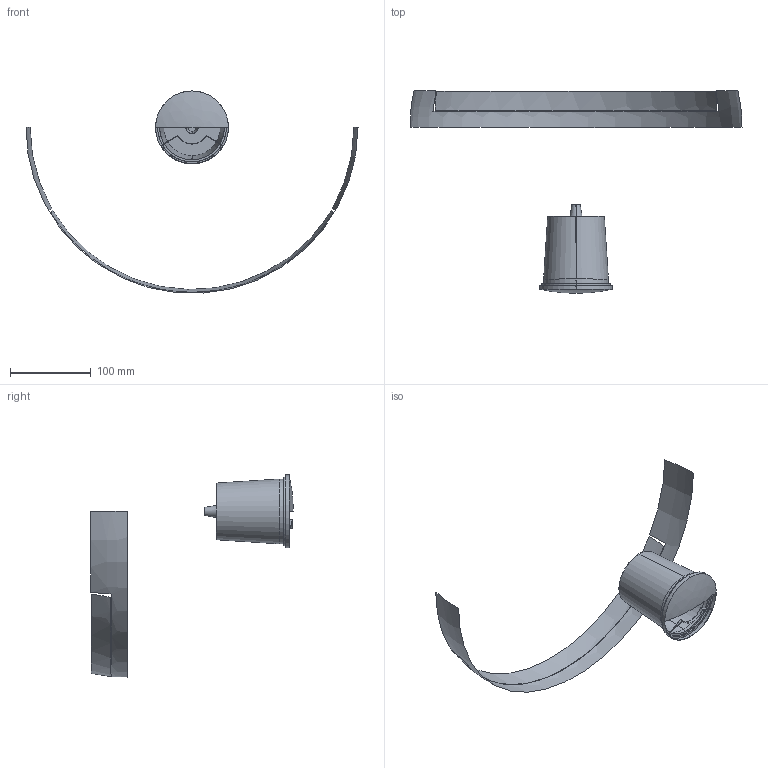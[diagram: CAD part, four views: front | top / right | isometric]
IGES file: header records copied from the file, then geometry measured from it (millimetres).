
Start section: SolidWorks IGES file using analytic representation for surfaces
Global section: file name: C:\Users\danielet\Desktop\3D CARLOS\INDUS-E2065-3D\INDUS-E2065-3D.IGS; native system: SolidWorks 2018; preprocessor: SolidWorks 2018; author: danielet; date: 220131.111215; units: millimetre
Bounding box: 410 x 250 x 249.47 mm (x, y, z)
Surface area: 59593.1 mm2 (no closed solid volume)
Topology: 0 solids, 0 shells, 25 faces, 547 edges, 546 vertices
Faces by surface type: revolution 16, bspline 9
